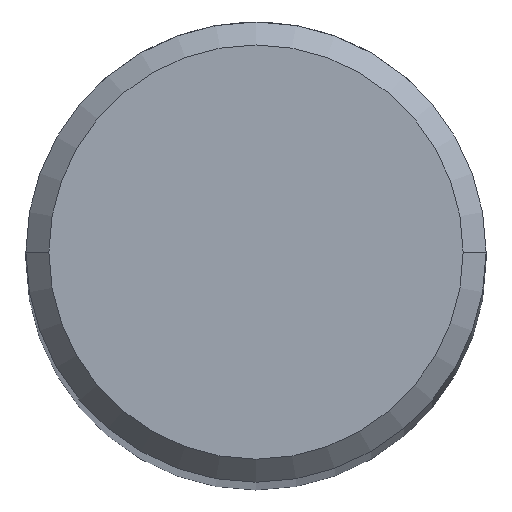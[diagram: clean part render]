
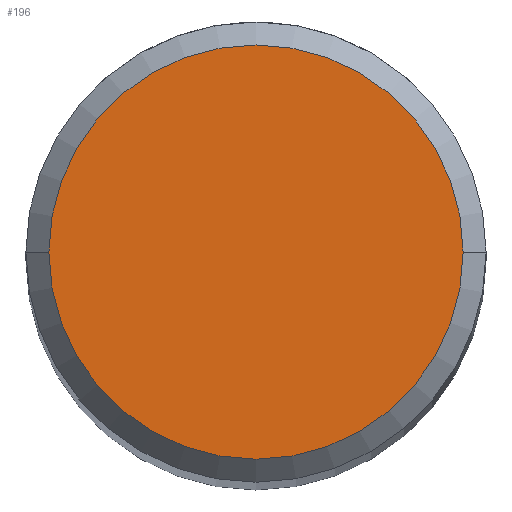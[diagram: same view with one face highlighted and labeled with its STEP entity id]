
A CAD part, top view. The second image highlights one B-rep face of the part: STEP entity #196.
In plain terms, the highlighted planar face has unit normal (0, 0, 1).
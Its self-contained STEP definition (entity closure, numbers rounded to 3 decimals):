
#16 = AXIS2_PLACEMENT_3D ( 'NONE', #117, #291, #218 ) ;
#25 = VERTEX_POINT ( 'NONE', #202 ) ;
#37 = DIRECTION ( 'NONE',  ( 0., 0., 1. ) ) ;
#46 = CIRCLE ( 'NONE', #108, 1.8 ) ;
#55 = VERTEX_POINT ( 'NONE', #284 ) ;
#65 = CARTESIAN_POINT ( 'NONE',  ( 0., 0., 39. ) ) ;
#108 = AXIS2_PLACEMENT_3D ( 'NONE', #226, #304, #206 ) ;
#117 = CARTESIAN_POINT ( 'NONE',  ( 0., 0., 39. ) ) ;
#121 = ORIENTED_EDGE ( 'NONE', *, *, #298, .T. ) ;
#127 = AXIS2_PLACEMENT_3D ( 'NONE', #65, #37, #301 ) ;
#180 = PLANE ( 'NONE',  #127 ) ;
#184 = ORIENTED_EDGE ( 'NONE', *, *, #189, .T. ) ;
#189 = EDGE_CURVE ( 'NONE', #25, #55, #46, .T. ) ;
#196 = ADVANCED_FACE ( 'NONE', ( #306 ), #180, .T. ) ;
#202 = CARTESIAN_POINT ( 'NONE',  ( 1.8, 0., 39. ) ) ;
#206 = DIRECTION ( 'NONE',  ( 1., 0., 0. ) ) ;
#218 = DIRECTION ( 'NONE',  ( 1., 0., 0. ) ) ;
#226 = CARTESIAN_POINT ( 'NONE',  ( 0., 0., 39. ) ) ;
#253 = EDGE_LOOP ( 'NONE', ( #121, #184 ) ) ;
#258 = CIRCLE ( 'NONE', #16, 1.8 ) ;
#284 = CARTESIAN_POINT ( 'NONE',  ( -1.8, 0., 39. ) ) ;
#291 = DIRECTION ( 'NONE',  ( 0., 0., 1. ) ) ;
#298 = EDGE_CURVE ( 'NONE', #55, #25, #258, .T. ) ;
#301 = DIRECTION ( 'NONE',  ( 1., 0., 0. ) ) ;
#304 = DIRECTION ( 'NONE',  ( 0., 0., 1. ) ) ;
#306 = FACE_OUTER_BOUND ( 'NONE', #253, .T. ) ;
